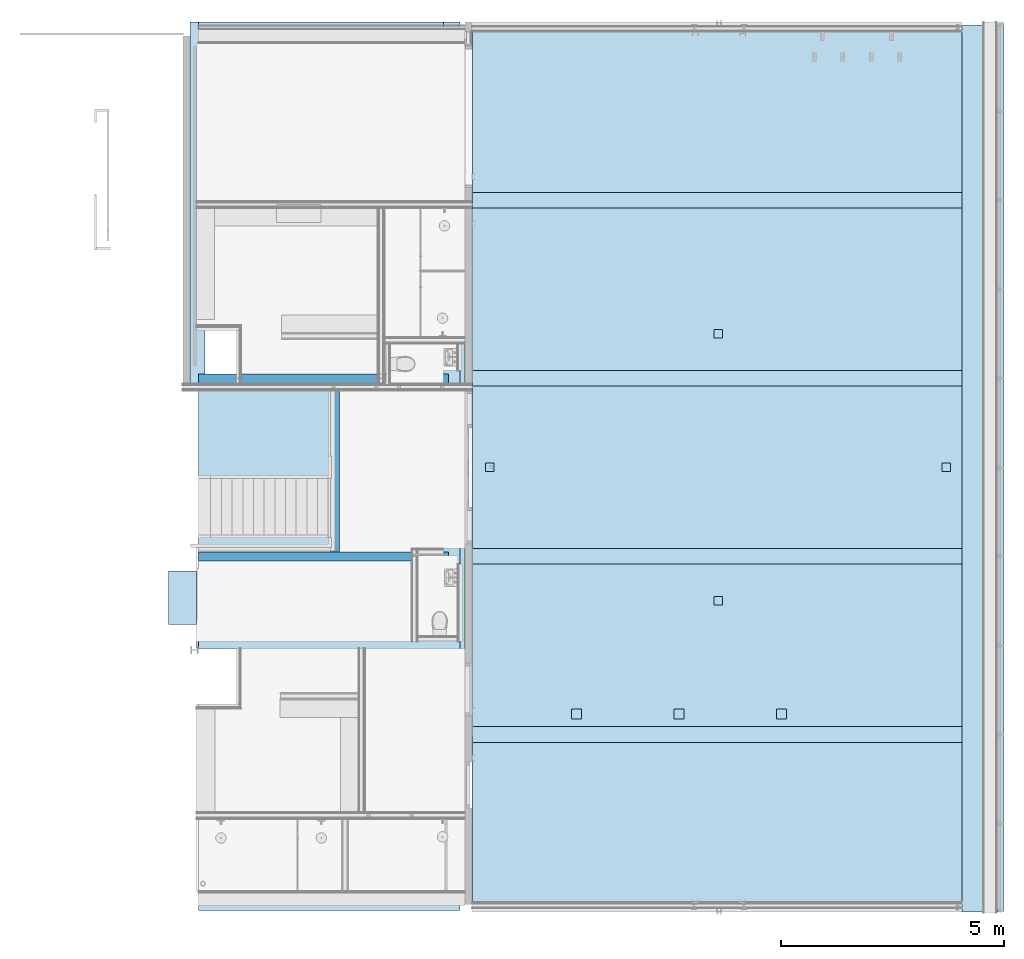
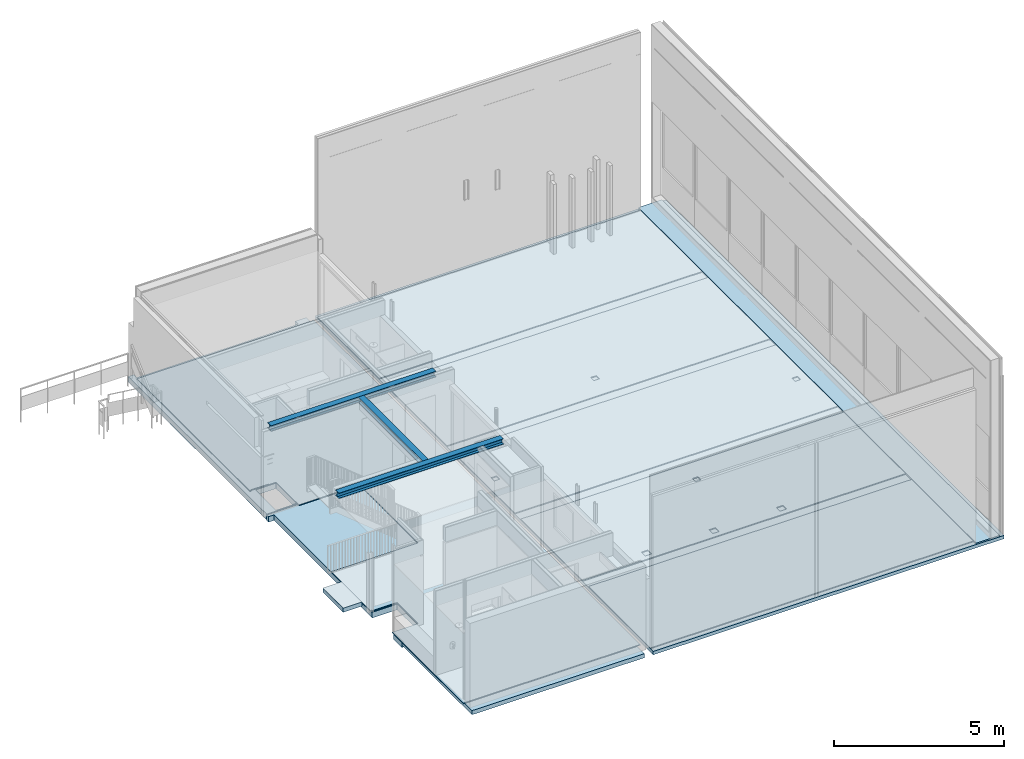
# One storey, part 6 of 35: 8 slabs, 3 beams, 14 openings.
"""IFC2X3 building model written with IfcOpenShell, lengths in millimetres."""

from ifc_helpers import new_model, entity, si_unit, converted_unit, derived_unit, money_unit, direction, frame, origin_with_axes, place, context, subcontext, project, spatial, faceted_brep, material, type_object, element, save


model = new_model("IFC2X3")

# Units and contexts
model_context = context("Model", 3, precision=0.01, world=origin_with_axes(), true_north=direction((0.0, 1.0)))
body_context = subcontext(model_context, "Body", "Model", "MODEL_VIEW")
ifc_project = project(units=[si_unit("LENGTHUNIT", "METRE", prefix="MILLI"), si_unit("AREAUNIT", "SQUARE_METRE"), si_unit("VOLUMEUNIT", "CUBIC_METRE"), converted_unit("PLANEANGLEUNIT", "DEGREE", entity("IfcPlaneAngleMeasure", 0.0174532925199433), si_unit("PLANEANGLEUNIT", "RADIAN"), dimensions=[0, 0, 0, 0, 0, 0, 0]), money_unit("EUR"), converted_unit("TIMEUNIT", "Year", entity("IfcTimeMeasure", 31557600.0), si_unit("TIMEUNIT", "SECOND"), dimensions=[0, 0, 1, 0, 0, 0, 0]), si_unit("MASSUNIT", "GRAM", prefix="KILO"), si_unit("THERMODYNAMICTEMPERATUREUNIT", "DEGREE_CELSIUS"), si_unit("LUMINOUSINTENSITYUNIT", "LUMEN"), si_unit("ENERGYUNIT", "JOULE", prefix="MEGA"), derived_unit("THERMALCONDUCTANCEUNIT", [(si_unit("POWERUNIT", "WATT"), 1), (si_unit("LENGTHUNIT", "METRE"), -1), (si_unit("THERMODYNAMICTEMPERATUREUNIT", "KELVIN"), -1)]), derived_unit("SPECIFICHEATCAPACITYUNIT", [(si_unit("ENERGYUNIT", "JOULE"), 1), (si_unit("MASSUNIT", "GRAM", prefix="KILO"), -1), (si_unit("THERMODYNAMICTEMPERATUREUNIT", "KELVIN"), -1)]), derived_unit("MASSDENSITYUNIT", [(si_unit("MASSUNIT", "GRAM", prefix="KILO"), 1), (si_unit("VOLUMEUNIT", "CUBIC_METRE"), -1)])], contexts=[model_context])

# Site, building, storey
site_placement = place(None, origin_with_axes())
site = spatial("IfcSite", under=ifc_project, at=site_placement, Name="<site naam>", CompositionType="ELEMENT")
building_placement = place(site_placement, origin_with_axes())
building = spatial("IfcBuilding", under=site, at=building_placement, Name="<Naam gebouw>", CompositionType="ELEMENT")
storey_placement = place(building_placement, frame((0.0, 0.0, 6345.0), z_axis=(0.0, 0.0, 1.0), x_axis=(1.0, 0.0, 0.0)))
storey = spatial("IfcBuildingStorey", under=building, at=storey_placement, Name="02 2e tussenverdieping", CompositionType="ELEMENT", Elevation=6345.0)

# Beams
ifc_material_1 = material(Name="staal C")
beam_type = type_object("IfcBeamType", Name="Profiel H algemeen 200 x 200", PredefinedType="BEAM")
beam_1_placement = place(storey_placement, frame((57786.4861307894, 8000.000000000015, 2937.999996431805), z_axis=(0.0, 0.0, 1.0), x_axis=(0.0, 1.0, 0.0)))
element("IfcBeam", 1, at=beam_1_placement, inside=storey, type_object=beam_type, material=ifc_material_1, Name="28_Balk_Profiel", ObjectType="BEAM", context=body_context, shape_type="Brep", body=[
    faceted_brep([(-100.0000031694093, 0.0, -100.000004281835), (-100.0000031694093, 5611.486130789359, -100.000004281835), (100.0000031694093, 5611.486130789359, -100.000004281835), (100.0000031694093, 0.0, -100.000004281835), (-100.0000030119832, 0.0, -84.99999684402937), (-100.0000030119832, 5611.486130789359, -84.99999684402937), (-4.499999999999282, 5611.486130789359, -84.99999684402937), (-4.499999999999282, 5611.486130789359, 84.99999684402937), (-100.0000030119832, 5611.486130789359, 84.99999684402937), (-100.0000031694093, 5611.486130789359, 100.000004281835), (100.0000031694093, 5611.486130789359, 100.000004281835), (100.0000030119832, 5611.486130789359, 84.99999684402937), (4.500000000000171, 5611.486130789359, 84.99999684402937), (4.500000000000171, 5611.486130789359, -84.99999684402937), (100.0000030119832, 5611.486130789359, -84.99999684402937), (100.0000030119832, 0.0, -84.99999684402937), (4.500000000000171, 0.0, -84.99999684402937), (4.500000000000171, 0.0, 84.99999684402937), (100.0000030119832, 0.0, 84.99999684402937), (100.0000031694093, 0.0, 100.000004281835), (-100.0000031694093, 0.0, 100.000004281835), (-100.0000030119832, 0.0, 84.99999684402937), (-4.500000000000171, 0.0, 84.99999684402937), (-4.500000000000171, 0.0, -84.99999684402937)], [[[0, 1, 2, 3]], [[4, 5, 1, 0]], [[2, 1, 5, 6, 7, 8, 9, 10, 11, 12, 13, 14]], [[3, 2, 14, 15]], [[4, 0, 3, 15, 16, 17, 18, 19, 20, 21, 22, 23]], [[23, 6, 5, 4]], [[22, 7, 6, 23]], [[21, 8, 7, 22]], [[20, 9, 8, 21]], [[19, 10, 9, 20]], [[18, 11, 10, 19]], [[17, 12, 11, 18]], [[16, 13, 12, 17]], [[15, 14, 13, 16]]]),
])
beam_2_placement = place(storey_placement, frame((55242.0983582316, 8000.000000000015, 2937.999996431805), z_axis=(0.0, 0.0, 1.0), x_axis=(1.0, 0.0, 0.0)))
element("IfcBeam", 2, at=beam_2_placement, inside=storey, type_object=beam_type, material=ifc_material_1, Name="28_Balk_Profiel", ObjectType="BEAM", context=body_context, shape_type="Brep", body=[
    faceted_brep([(-100.0000031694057, 3899.999996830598, 100.000003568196), (-100.0000031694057, 100.0000031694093, 100.000004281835), (100.0000031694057, 100.0000031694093, 100.000004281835), (100.0000031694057, 3899.999996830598, 100.000003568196), (-100.000003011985, 3899.999996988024, 84.99999613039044), (-100.000003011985, 100.0000030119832, 84.99999684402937), (4.500000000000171, 100.0000030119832, 84.99999684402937), (100.000003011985, 100.0000030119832, 84.99999684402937), (-4.500000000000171, 100.0000030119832, 84.99999684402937), (100.000003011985, 3899.999996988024, 84.99999613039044), (-4.500000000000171, 3899.999996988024, 84.99999613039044), (4.500000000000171, 3899.999996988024, 84.99999613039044), (-4.500000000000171, 4.500000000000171, 84.99999684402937), (4.500000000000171, 4.500000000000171, 84.99999684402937), (-4.500000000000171, 3995.500000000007, 84.99999613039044), (4.500000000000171, 3995.500000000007, 84.99999613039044), (-4.500000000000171, 4.500000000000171, -84.99999684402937), (-4.500000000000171, 3995.500000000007, -84.9999975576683), (-4.500000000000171, 3899.999996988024, -84.9999975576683), (-4.500000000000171, 100.0000030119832, -84.99999684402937), (4.500000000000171, 4.500000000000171, -84.99999684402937), (4.500000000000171, 100.0000030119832, -84.99999684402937), (4.500000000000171, 3899.999996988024, -84.9999975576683), (4.500000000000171, 3995.500000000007, -84.9999975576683), (-100.000003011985, 3899.999996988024, -84.9999975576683), (-100.000003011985, 100.0000030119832, -84.99999684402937), (100.000003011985, 100.0000030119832, -84.99999684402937), (100.000003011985, 3899.999996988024, -84.9999975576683), (100.0000031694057, 3899.999996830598, -100.0000049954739), (-100.0000031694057, 3899.999996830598, -100.0000049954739), (-100.0000031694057, 100.0000031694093, -100.000004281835), (100.0000031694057, 100.0000031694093, -100.000004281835)], [[[0, 1, 2, 3]], [[4, 5, 1, 0]], [[6, 7, 2, 1, 5, 8]], [[3, 2, 7, 9]], [[10, 4, 0, 3, 9, 11]], [[10, 8, 5, 4]], [[9, 7, 6, 11]], [[12, 13, 6, 8]], [[14, 10, 11, 15]], [[16, 12, 8, 10, 14, 17, 18, 19]], [[13, 20, 21, 22, 23, 15, 11, 6]], [[16, 20, 13, 12]], [[17, 14, 15, 23]], [[18, 17, 23, 22]], [[24, 25, 19, 18]], [[19, 21, 20, 16]], [[22, 21, 26, 27]], [[24, 18, 22, 27, 28, 29]], [[29, 30, 25, 24]], [[30, 31, 26, 21, 19, 25]], [[27, 26, 31, 28]], [[28, 31, 30, 29]]]),
])
beam_3_placement = place(storey_placement, frame((57786.4861307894, 12000.00000000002, 2937.999995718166), z_axis=(0.0, 0.0, 1.0), x_axis=(0.0, 1.0, 0.0)))
element("IfcBeam", 3, at=beam_3_placement, inside=storey, type_object=beam_type, material=ifc_material_1, Name="28_Balk_Profiel", ObjectType="BEAM", context=body_context, shape_type="Brep", body=[
    faceted_brep([(-100.0000031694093, 0.0, -100.000004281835), (-100.0000031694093, 5611.486130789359, -100.000004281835), (100.0000031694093, 5611.486130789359, -100.000004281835), (100.0000031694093, 0.0, -100.000004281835), (-100.0000030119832, 0.0, -84.99999684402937), (-100.0000030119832, 5611.486130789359, -84.99999684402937), (-4.500000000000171, 5611.486130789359, -84.99999684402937), (-4.500000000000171, 5611.486130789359, 84.99999684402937), (-100.0000030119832, 5611.486130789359, 84.99999684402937), (-100.0000031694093, 5611.486130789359, 100.000004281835), (100.0000031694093, 5611.486130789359, 100.000004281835), (100.0000030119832, 5611.486130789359, 84.99999684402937), (4.500000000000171, 5611.486130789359, 84.99999684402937), (4.500000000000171, 5611.486130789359, -84.99999684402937), (100.0000030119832, 5611.486130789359, -84.99999684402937), (100.0000030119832, 0.0, -84.99999684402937), (4.500000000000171, 0.0, -84.99999684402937), (4.500000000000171, 0.0, 84.99999684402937), (100.0000030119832, 0.0, 84.99999684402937), (100.0000031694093, 0.0, 100.000004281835), (-100.0000031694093, 0.0, 100.000004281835), (-100.0000030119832, 0.0, 84.99999684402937), (-4.500000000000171, 0.0, 84.99999684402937), (-4.500000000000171, 0.0, -84.99999684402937)], [[[0, 1, 2, 3]], [[4, 5, 1, 0]], [[2, 1, 5, 6, 7, 8, 9, 10, 11, 12, 13, 14]], [[3, 2, 14, 15]], [[4, 0, 3, 15, 16, 17, 18, 19, 20, 21, 22, 23]], [[23, 6, 5, 4]], [[22, 7, 6, 23]], [[21, 8, 7, 22]], [[20, 9, 8, 21]], [[19, 10, 9, 20]], [[18, 11, 10, 19]], [[17, 12, 11, 18]], [[16, 13, 12, 17]], [[15, 14, 13, 16]]]),
])

# Slab, openings
ifc_material_2 = material(Name="beton_gewapend_vloer C")
slab_type_1 = type_object("IfcSlabType", Name="beton_gewapend_vloer C  200", PredefinedType="NOTDEFINED")
slab_1_placement = place(storey_placement, frame((51984.99990246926, 11825.00000000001, -30.00000000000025), z_axis=(0.0, 0.0, 1.0), x_axis=(1.0, 0.0, 0.0)))
slab_1 = element("IfcSlab", 4, at=slab_1_placement, inside=storey, type_object=slab_type_1, material=ifc_material_2, Name="23_Vloer_beton_gewapend_vloer", PredefinedType="NOTDEFINED", context=body_context, shape_type="Brep", body=[
    faceted_brep([(0.0, 0.0, 0.0), (0.0, 0.0, -200.0000000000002), (6059.999880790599, 0.0, -200.0000000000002), (6059.999880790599, 0.0, 0.0), (0.0, 8175.000000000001, 0.0), (0.0, 8175.000000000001, -200.0000000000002), (6059.999880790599, 8175.000000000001, -200.0000000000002), (6059.999880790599, 8175.000000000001, 0.0)], [[[0, 1, 2, 3]], [[4, 5, 1, 0]], [[2, 1, 5, 6]], [[3, 2, 6, 7]], [[4, 0, 3, 7]], [[7, 6, 5, 4]]]),
])
opening_1_placement = place(slab_1_placement, frame((-51984.99990246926, -11825.00000000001, -6314.999999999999), z_axis=(0.0, 0.0, 1.0), x_axis=(1.0, 0.0, 0.0)))
element("IfcOpeningElement", 5, at=opening_1_placement, cuts=slab_1, Name="23_Opening_", context=body_context, shape_type="Brep", body=[
    faceted_brep([(52174.67944591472, 8275.000131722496, 6515.000000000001), (52174.67944591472, 11725.00000000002, 6515.000000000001), (52174.67944591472, 11725.00000000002, 5914.999999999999), (52174.67944591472, 8275.000131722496, 5914.999999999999), (55142.12181931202, 8274.999987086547, 6515.000000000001), (55142.12181931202, 11725.00000000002, 6515.000000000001), (55142.12181931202, 11725.00000000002, 5914.999999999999), (55142.12181931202, 8274.999987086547, 5914.999999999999)], [[[0, 1, 2, 3]], [[0, 4, 5, 1]], [[1, 5, 6, 2]], [[3, 2, 6, 7]], [[4, 0, 3, 7]], [[5, 4, 7, 6]]]),
])
opening_2_placement = place(slab_1_placement, frame((-51984.99990246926, -11825.00000000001, -6314.999999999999), z_axis=(0.0, 0.0, 1.0), x_axis=(1.0, 0.0, 0.0)))
element("IfcOpeningElement", 6, at=opening_2_placement, cuts=slab_1, Name="23_Opening_", context=body_context, shape_type="Brep", body=[
    faceted_brep([(52325.00000000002, 11875.00000000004, 6515.000000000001), (52325.00000000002, 13075.00000000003, 6515.000000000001), (52325.00000000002, 13075.00000000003, 5914.999999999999), (52325.00000000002, 11875.00000000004, 5914.999999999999), (53025.00000000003, 11875.00000000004, 6515.000000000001), (53025.00000000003, 13075.00000000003, 6515.000000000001), (53025.00000000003, 13075.00000000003, 5914.999999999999), (53025.00000000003, 11875.00000000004, 5914.999999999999)], [[[0, 1, 2, 3]], [[0, 4, 5, 1]], [[1, 5, 6, 2]], [[3, 2, 6, 7]], [[4, 0, 3, 7]], [[5, 4, 7, 6]]]),
])
opening_3_placement = place(slab_1_placement, frame((-51984.99990246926, -11825.00000000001, -6314.999999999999), z_axis=(0.0, 0.0, 1.0), x_axis=(1.0, 0.0, 0.0)))
element("IfcOpeningElement", 7, at=opening_3_placement, cuts=slab_1, Name="23_Opening_", context=body_context, shape_type="Brep", body=[
    faceted_brep([(52324.87234042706, 4685.000000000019, 6515.000000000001), (52324.87234042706, 5934.750000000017, 6515.000000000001), (52324.87234042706, 5934.750000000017, 5914.999999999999), (52324.87234042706, 4685.000000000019, 5914.999999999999), (53025.00000000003, 4685.000000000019, 6515.000000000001), (53025.00000000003, 5934.750000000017, 6515.000000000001), (53025.00000000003, 5934.750000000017, 5914.999999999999), (53025.00000000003, 4685.000000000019, 5914.999999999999)], [[[0, 1, 2, 3]], [[0, 4, 5, 1]], [[1, 5, 6, 2]], [[3, 2, 6, 7]], [[4, 0, 3, 7]], [[5, 4, 7, 6]]]),
])
opening_4_placement = place(slab_1_placement, frame((-51984.99990246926, -11825.00000000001, -6314.999999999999), z_axis=(0.0, 0.0, 1.0), x_axis=(1.0, 0.0, 0.0)))
element("IfcOpeningElement", 8, at=opening_4_placement, cuts=slab_1, Name="23_Opening_", context=body_context, shape_type="Brep", body=[
    faceted_brep([(52175.00007309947, 20000.00000000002, 6314.999999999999), (52175.00007309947, 20290.62140104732, 6314.999999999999), (52175.00007309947, 20290.62140104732, 6164.999999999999), (52175.00007309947, 20000.00000000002, 6164.999999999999), (57675.00000000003, 20000.00000000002, 6314.999999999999), (57675.00000000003, 20290.62140104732, 6314.999999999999), (57675.00000000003, 20290.62140104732, 6164.999999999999), (57675.00000000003, 20000.00000000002, 6164.999999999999)], [[[0, 1, 2, 3]], [[0, 4, 5, 1]], [[1, 5, 6, 2]], [[3, 2, 6, 7]], [[4, 0, 3, 7]], [[5, 4, 7, 6]]]),
])
opening_5_placement = place(slab_1_placement, frame((-51984.99990246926, -11825.00000000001, -6314.999999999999), z_axis=(0.0, 0.0, 1.0), x_axis=(1.0, 0.0, 0.0)))
element("IfcOpeningElement", 9, at=opening_5_placement, cuts=slab_1, Name="23_Opening_", context=body_context, shape_type="Brep", body=[
    faceted_brep([(52175.00000000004, 19825.00000000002, 6314.999999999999), (52175.00000000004, 19999.99992132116, 6314.999999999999), (52175.00000000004, 19999.99992132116, 6164.999999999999), (52175.00000000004, 19825.00000000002, 6164.999999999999), (57674.9999269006, 19825.00000000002, 6314.999999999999), (57674.9999269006, 19999.99992132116, 6314.999999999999), (57674.9999269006, 19999.99992132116, 6164.999999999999), (57674.9999269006, 19825.00000000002, 6164.999999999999)], [[[0, 1, 2, 3]], [[0, 4, 5, 1]], [[1, 5, 6, 2]], [[3, 2, 6, 7]], [[4, 0, 3, 7]], [[5, 4, 7, 6]]]),
])

# Slab, opening
slab_2_placement = place(storey_placement, frame((58044.99988079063, 11825.00000000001, -60.0000000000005), z_axis=(0.0, 0.0, 1.0), x_axis=(1.0, 0.0, 0.0)))
slab_2 = element("IfcSlab", 10, at=slab_2_placement, inside=storey, type_object=slab_type_1, material=ifc_material_2, Name="23_Vloer_beton_gewapend_vloer", PredefinedType="NOTDEFINED", context=body_context, shape_type="Brep", body=[
    faceted_brep([(0.0, 0.0, 0.0), (0.0, 0.0, -200.0000000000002), (-6059.999880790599, 0.0, -200.0000000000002), (-6059.999880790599, 0.0, 0.0), (0.0, -7649.999999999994, 0.0), (0.0, -7649.999999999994, -200.0000000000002), (-5870.320434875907, -7649.999999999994, -200.0000000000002), (-5870.320434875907, -99.99999999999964, -200.0000000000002), (-6059.999880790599, -99.99999999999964, -200.0000000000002), (-6059.999880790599, -99.99999999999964, 0.0), (-5870.320434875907, -99.99999999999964, 0.0), (-5870.320434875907, -7649.999999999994, 0.0)], [[[0, 1, 2, 3]], [[4, 5, 1, 0]], [[2, 1, 5, 6, 7, 8]], [[3, 2, 8, 9]], [[4, 0, 3, 9, 10, 11]], [[11, 6, 5, 4]], [[10, 7, 6, 11]], [[9, 8, 7, 10]]]),
])
opening_6_placement = place(slab_2_placement, frame((-58044.99988079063, -11825.00000000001, -6284.999999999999), z_axis=(0.0, 0.0, 1.0), x_axis=(1.0, 0.0, 0.0)))
element("IfcOpeningElement", 11, at=opening_6_placement, cuts=slab_2, Name="23_Opening_", context=body_context, shape_type="Brep", body=[
    faceted_brep([(52135.00000000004, 4685.000000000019, 6484.999999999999), (52135.00000000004, 5934.750000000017, 6484.999999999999), (52135.00000000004, 5934.750000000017, 5884.999999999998), (52135.00000000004, 4685.000000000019, 5884.999999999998), (53025.00000000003, 4685.000000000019, 6484.999999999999), (53025.00000000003, 5934.750000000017, 6484.999999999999), (53025.00000000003, 5934.750000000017, 5884.999999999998), (53025.00000000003, 4685.000000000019, 5884.999999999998)], [[[0, 1, 2, 3]], [[0, 4, 5, 1]], [[1, 5, 6, 2]], [[3, 2, 6, 7]], [[4, 0, 3, 7]], [[5, 4, 7, 6]]]),
])

# Slab
slab_type_2 = type_object("IfcSlabType", Name="beton_gewapend_vloer C  120", PredefinedType="NOTDEFINED")
slab_3_placement = place(storey_placement, frame((58325.00000000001, 10.91067811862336, -30.00000000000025), z_axis=(0.0, 0.0, 1.0), x_axis=(1.0, 0.0, 0.0)))
element("IfcSlab", 12, at=slab_3_placement, inside=storey, type_object=slab_type_2, material=ifc_material_2, Name="23_Vloer_beton_gewapend_vloer", PredefinedType="NOTDEFINED", context=body_context, shape_type="Brep", body=[
    faceted_brep([(0.0, 0.0, 0.0), (0.0, 0.0, -120.0000000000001), (11945.00000000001, 0.0, -120.0000000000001), (11945.00000000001, 0.0, 0.0), (0.0, 19929.08932188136, 0.0), (0.0, 19929.08932188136, -120.0000000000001), (11945.00000000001, 19929.08932188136, -120.0000000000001), (11945.00000000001, 19929.08932188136, 0.0)], [[[0, 1, 2, 3]], [[4, 5, 1, 0]], [[2, 1, 5, 6]], [[3, 2, 6, 7]], [[4, 0, 3, 7]], [[7, 6, 5, 4]]]),
])

# Slab, openings
ifc_material_3 = material(Name="beton")
slab_type_3 = type_object("IfcSlabType", Name="beton 30", PredefinedType="NOTDEFINED")
slab_4_placement = place(storey_placement, frame((58317.78284470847, 10.91067811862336, -30.00000000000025), z_axis=(0.0, 0.0, 1.0), x_axis=(1.0, 0.0, 0.0)))
slab_4 = element("IfcSlab", 13, at=slab_4_placement, inside=storey, type_object=slab_type_3, material=ifc_material_3, Name="23_Vloer_beton", PredefinedType="NOTDEFINED", context=body_context, shape_type="Brep", body=[
    faceted_brep([(11007.21715529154, 3814.08932188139, 0.0), (7.21715529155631, 3814.089321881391, 0.0), (7.21715529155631, 3814.089321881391, 30.00000000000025), (11007.21715529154, 3814.089321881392, 30.00000000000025), (11007.21715529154, 164.0893218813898, 0.0), (7.21715529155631, 164.0893218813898, 0.0), (7.21715529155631, 164.0893218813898, 30.00000000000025), (11007.21715529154, 164.0893218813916, 30.00000000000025)], [[[0, 1, 2, 3]], [[4, 5, 1, 0]], [[5, 6, 2, 1]], [[3, 2, 6, 7]], [[4, 0, 3, 7]], [[7, 6, 5, 4]]]),
    faceted_brep([(11007.21715529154, 7814.089321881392, 0.0), (7.21715529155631, 7814.089321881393, 0.0), (7.21715529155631, 7814.089321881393, 30.00000000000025), (11007.21715529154, 7814.089321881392, 30.00000000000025), (11007.21715529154, 4164.089321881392, 0.0), (7.21715529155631, 4164.089321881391, 0.0), (7.21715529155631, 4164.089321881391, 30.00000000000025), (11007.21715529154, 4164.089321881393, 30.00000000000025)], [[[0, 1, 2, 3]], [[4, 5, 1, 0]], [[5, 6, 2, 1]], [[3, 2, 6, 7]], [[4, 0, 3, 7]], [[7, 6, 5, 4]]]),
    faceted_brep([(11007.21715529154, 11814.08932188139, 0.0), (7.21715529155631, 11814.08932188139, 0.0), (7.21715529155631, 11814.08932188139, 30.00000000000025), (11007.21715529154, 11814.08932188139, 30.00000000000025), (11007.21715529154, 8164.089321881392, 0.0), (7.21715529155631, 8164.089321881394, 0.0), (7.21715529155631, 8164.089321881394, 30.00000000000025), (11007.21715529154, 8164.089321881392, 30.00000000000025)], [[[0, 1, 2, 3]], [[4, 5, 1, 0]], [[5, 6, 2, 1]], [[3, 2, 6, 7]], [[4, 0, 3, 7]], [[7, 6, 5, 4]]]),
    faceted_brep([(11007.21715529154, 15814.08932188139, 0.0), (7.217155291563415, 15814.08932188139, 0.0), (7.217155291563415, 15814.08932188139, 30.00000000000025), (11007.21715529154, 15814.08932188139, 30.00000000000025), (11007.21715529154, 12164.08932188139, 0.0), (7.21715529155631, 12164.08932188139, 0.0), (7.21715529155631, 12164.08932188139, 30.00000000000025), (11007.21715529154, 12164.08932188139, 30.00000000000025)], [[[0, 1, 2, 3]], [[4, 5, 1, 0]], [[5, 6, 2, 1]], [[3, 2, 6, 7]], [[4, 0, 3, 7]], [[7, 6, 5, 4]]]),
    faceted_brep([(11007.21715529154, 19814.08932188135, 0.0), (7.217155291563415, 19814.08932188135, 0.0), (7.217155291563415, 19814.08932188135, 30.00000000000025), (11007.21715529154, 19814.08932188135, 30.00000000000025), (11007.21715529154, 16164.08932188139, 0.0), (7.217155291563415, 16164.08932188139, 0.0), (7.217155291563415, 16164.08932188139, 30.00000000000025), (11007.21715529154, 16164.08932188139, 30.00000000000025)], [[[0, 1, 2, 3]], [[4, 5, 1, 0]], [[5, 6, 2, 1]], [[3, 2, 6, 7]], [[3, 7, 4, 0]], [[7, 6, 5, 4]]]),
])
opening_7_placement = place(slab_4_placement, frame((-58317.78284470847, -10.91067811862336, -6314.999999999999), z_axis=(0.0, 0.0, 1.0), x_axis=(1.0, 0.0, 0.0)))
element("IfcOpeningElement", 14, at=opening_7_placement, cuts=slab_4, Name="23_Opening_", context=body_context, shape_type="Brep", body=[
    faceted_brep([(63751.24207001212, 12910.45093231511, 6285.0), (63941.24207000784, 12910.45093231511, 6285.0), (63941.24207000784, 12910.45093231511, 6375.0), (63751.24207001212, 12910.45093231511, 6375.0), (63751.24207001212, 13100.45093231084, 6285.0), (63941.24207000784, 13100.45093231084, 6285.0), (63941.24207000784, 13100.45093231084, 6375.0), (63751.24207001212, 13100.45093231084, 6375.0)], [[[0, 1, 2, 3]], [[0, 4, 5, 1]], [[1, 5, 6, 2]], [[3, 2, 6, 7]], [[4, 0, 3, 7]], [[5, 4, 7, 6]]]),
])
opening_8_placement = place(slab_4_placement, frame((-58317.78284470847, -10.91067811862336, -6314.999999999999), z_axis=(0.0, 0.0, 1.0), x_axis=(1.0, 0.0, 0.0)))
element("IfcOpeningElement", 15, at=opening_8_placement, cuts=slab_4, Name="23_Opening_", context=body_context, shape_type="Brep", body=[
    faceted_brep([(62853.74207001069, 4347.950932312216, 6285.0), (63078.74207000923, 4347.950932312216, 6285.0), (63078.74207000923, 4347.950932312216, 6375.0), (62853.74207001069, 4347.950932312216, 6375.0), (62853.74207001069, 4572.95093231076, 6285.0), (63078.74207000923, 4572.95093231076, 6285.0), (63078.74207000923, 4572.95093231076, 6375.0), (62853.74207001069, 4572.95093231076, 6375.0)], [[[0, 1, 2, 3]], [[0, 4, 5, 1]], [[1, 5, 6, 2]], [[3, 2, 6, 7]], [[4, 0, 3, 7]], [[5, 4, 7, 6]]]),
])
opening_9_placement = place(slab_4_placement, frame((-58317.78284470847, -10.91067811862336, -6314.999999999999), z_axis=(0.0, 0.0, 1.0), x_axis=(1.0, 0.0, 0.0)))
element("IfcOpeningElement", 16, at=opening_9_placement, cuts=slab_4, Name="23_Opening_", context=body_context, shape_type="Brep", body=[
    faceted_brep([(63751.21707001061, 6910.450932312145, 6285.0), (63941.2170700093, 6910.450932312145, 6285.0), (63941.2170700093, 6910.450932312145, 6375.0), (63751.21707001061, 6910.450932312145, 6375.0), (63751.21707001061, 7100.450932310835, 6285.0), (63941.2170700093, 7100.450932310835, 6285.0), (63941.2170700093, 7100.450932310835, 6375.0), (63751.21707001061, 7100.450932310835, 6375.0)], [[[0, 1, 2, 3]], [[0, 4, 5, 1]], [[1, 5, 6, 2]], [[3, 2, 6, 7]], [[4, 0, 3, 7]], [[5, 4, 7, 6]]]),
])
opening_10_placement = place(slab_4_placement, frame((-58317.78284470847, -10.91067811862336, -6314.999999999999), z_axis=(0.0, 0.0, 1.0), x_axis=(1.0, 0.0, 0.0)))
element("IfcOpeningElement", 17, at=opening_10_placement, cuts=slab_4, Name="23_Opening_", context=body_context, shape_type="Brep", body=[
    faceted_brep([(65153.74207001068, 4347.950932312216, 6285.0), (65378.74207000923, 4347.950932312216, 6285.0), (65378.74207000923, 4347.950932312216, 6375.0), (65153.74207001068, 4347.950932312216, 6375.0), (65153.74207001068, 4572.95093231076, 6285.0), (65378.74207000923, 4572.95093231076, 6285.0), (65378.74207000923, 4572.95093231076, 6375.0), (65153.74207001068, 4572.95093231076, 6375.0)], [[[0, 1, 2, 3]], [[0, 4, 5, 1]], [[1, 5, 6, 2]], [[3, 2, 6, 7]], [[4, 0, 3, 7]], [[5, 4, 7, 6]]]),
])
opening_11_placement = place(slab_4_placement, frame((-58317.78284470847, -10.91067811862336, -6314.999999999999), z_axis=(0.0, 0.0, 1.0), x_axis=(1.0, 0.0, 0.0)))
element("IfcOpeningElement", 18, at=opening_11_placement, cuts=slab_4, Name="23_Opening_", context=body_context, shape_type="Brep", body=[
    faceted_brep([(60553.74207001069, 4347.950932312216, 6285.0), (60778.74207000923, 4347.950932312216, 6285.0), (60778.74207000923, 4347.950932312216, 6375.0), (60553.74207001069, 4347.950932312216, 6375.0), (60553.74207001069, 4572.95093231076, 6285.0), (60778.74207000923, 4572.95093231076, 6285.0), (60778.74207000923, 4572.95093231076, 6375.0), (60553.74207001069, 4572.95093231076, 6375.0)], [[[0, 1, 2, 3]], [[0, 4, 5, 1]], [[1, 5, 6, 2]], [[3, 2, 6, 7]], [[4, 0, 3, 7]], [[5, 4, 7, 6]]]),
])
opening_12_placement = place(slab_4_placement, frame((-58317.78284470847, -10.91067811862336, -6314.999999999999), z_axis=(0.0, 0.0, 1.0), x_axis=(1.0, 0.0, 0.0)))
element("IfcOpeningElement", 19, at=opening_12_placement, cuts=slab_4, Name="23_Opening_", context=body_context, shape_type="Brep", body=[
    faceted_brep([(68876.24206987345, 9910.450932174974, 6285.0), (69066.24207014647, 9910.450932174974, 6285.0), (69066.24207014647, 9910.450932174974, 6375.0), (68876.24206987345, 9910.450932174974, 6375.0), (68876.24206987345, 10100.45093244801, 6285.0), (69066.24207014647, 10100.45093244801, 6285.0), (69066.24207014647, 10100.45093244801, 6375.0), (68876.24206987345, 10100.45093244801, 6375.0)], [[[0, 1, 2, 3]], [[0, 4, 5, 1]], [[1, 5, 6, 2]], [[3, 2, 6, 7]], [[4, 0, 3, 7]], [[5, 4, 7, 6]]]),
])
opening_13_placement = place(slab_4_placement, frame((-58317.78284470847, -10.91067811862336, -6314.999999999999), z_axis=(0.0, 0.0, 1.0), x_axis=(1.0, 0.0, 0.0)))
element("IfcOpeningElement", 20, at=opening_13_placement, cuts=slab_4, Name="23_Opening_", context=body_context, shape_type="Brep", body=[
    faceted_brep([(58626.24206987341, 9910.450932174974, 6285.0), (58816.24207014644, 9910.450932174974, 6285.0), (58816.24207014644, 9910.450932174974, 6375.0), (58626.24206987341, 9910.450932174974, 6375.0), (58626.24206987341, 10100.45093244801, 6285.0), (58816.24207014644, 10100.45093244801, 6285.0), (58816.24207014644, 10100.45093244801, 6375.0), (58626.24206987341, 10100.45093244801, 6375.0)], [[[0, 1, 2, 3]], [[0, 4, 5, 1]], [[1, 5, 6, 2]], [[3, 2, 6, 7]], [[4, 0, 3, 7]], [[5, 4, 7, 6]]]),
])

# Slab, opening
ifc_material_4 = material(Name="Zwevende dekvloer")
slab_type_4 = type_object("IfcSlabType", Name="Zwevende dekvloer 30", PredefinedType="NOTDEFINED")
slab_5_placement = place(storey_placement, frame((52134.99994400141, 19730.99999999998, 0.0), z_axis=(0.0, 0.0, 1.0), x_axis=(1.0, 0.0, 0.0)))
slab_5 = element("IfcSlab", 21, at=slab_5_placement, inside=storey, type_object=slab_type_4, material=ifc_material_4, Name="23_Vloer_Zwevende", PredefinedType="NOTDEFINED", context=body_context, shape_type="Brep", body=[
    faceted_brep([(5.599861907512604e-05, -13796.24999999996, 0.0), (16.99948731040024, -13796.24999999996, 0.0), (16.99948731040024, -13752.99991744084, 0.0), (30.00005599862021, -13752.99990172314, 0.0), (30.00005599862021, -13796.24999999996, 0.0), (890.0000559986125, -13796.24999999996, 0.0), (890.0000559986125, -15045.99999999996, 0.0), (5.59986261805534e-05, -15045.99999999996, 0.0), (5.59986261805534e-05, -19252.99999999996, 0.0), (6022.782659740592, -19252.99999999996, 0.0), (6022.782659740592, 0.0, 0.0), (0.0, 0.0, 0.0), (0.0, -6655.999999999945, 0.0), (890.0000559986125, -6655.999999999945, 0.0), (890.0000559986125, -8005.999981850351, 0.0), (2959.621874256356, -8005.999981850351, 0.0), (2959.621874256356, -11456.00001814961, 0.0), (5.599861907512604e-05, -11456.00001814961, 0.0), (5.599861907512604e-05, -13796.24999999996, -30.00000000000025), (16.99948731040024, -13796.24999999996, -30.00000000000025), (16.99948731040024, -13752.99991744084, -30.00000000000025), (30.00005599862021, -13752.99990172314, -30.00000000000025), (30.00005599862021, -13796.24999999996, -30.00000000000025), (890.0000559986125, -13796.24999999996, -30.00000000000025), (890.0000559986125, -15045.99999999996, -30.00000000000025), (5.59986261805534e-05, -15045.99999999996, -30.00000000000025), (5.59986261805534e-05, -19252.99999999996, -30.00000000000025), (6022.782659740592, -19252.99999999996, -30.00000000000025), (6022.782659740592, 0.0, -30.00000000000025), (0.0, 0.0, -30.00000000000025), (0.0, -6655.999999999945, -30.00000000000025), (890.0000559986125, -6655.999999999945, -30.00000000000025), (890.0000559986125, -8005.999981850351, -30.00000000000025), (2959.621874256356, -8005.999981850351, -30.00000000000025), (2959.621874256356, -11456.00001814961, -30.00000000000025), (5.599861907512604e-05, -11456.00001814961, -30.00000000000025)], [[[0, 1, 2, 3, 4, 5, 6, 7, 8, 9, 10, 11, 12, 13, 14, 15, 16, 17]], [[18, 19, 1, 0]], [[20, 2, 1, 19]], [[21, 3, 2, 20]], [[22, 4, 3, 21]], [[5, 4, 22, 23]], [[6, 5, 23, 24]], [[7, 6, 24, 25]], [[8, 7, 25, 26]], [[9, 8, 26, 27]], [[10, 9, 27, 28]], [[11, 10, 28, 29]], [[12, 11, 29, 30]], [[13, 12, 30, 31]], [[14, 13, 31, 32]], [[15, 14, 32, 33]], [[16, 15, 33, 34]], [[17, 16, 34, 35]], [[0, 17, 35, 18]], [[21, 20, 19, 18, 35, 34, 33, 32, 31, 30, 29, 28, 27, 26, 25, 24, 23, 22]]]),
])
opening_14_placement = place(slab_5_placement, frame((-52134.99994400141, -19730.99999999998, -6345.0), z_axis=(0.0, 0.0, 1.0), x_axis=(1.0, 0.0, 0.0)))
element("IfcOpeningElement", 22, at=opening_14_placement, cuts=slab_5, Name="23_Opening_", context=body_context, shape_type="Brep", body=[
    faceted_brep([(52175.00000000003, 12105.00001099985, 6375.000000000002), (52175.00000000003, 13105.00001099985, 6375.000000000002), (52175.00000000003, 13105.00001099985, 6285.000000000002), (52175.00000000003, 12105.00001099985, 6285.000000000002), (52775.00000000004, 12105.00001099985, 6375.000000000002), (52775.00000000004, 13105.00001099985, 6375.000000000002), (52775.00000000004, 13105.00001099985, 6285.000000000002), (52775.00000000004, 12105.00001099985, 6285.000000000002)], [[[0, 1, 2, 3]], [[0, 4, 5, 1]], [[1, 5, 6, 2]], [[3, 2, 6, 7]], [[4, 0, 3, 7]], [[5, 4, 7, 6]]]),
])

# Slabs
slab_type_5 = type_object("IfcSlabType", Name="beton_gewapend_vloer C  150", PredefinedType="NOTDEFINED")
slab_6_placement = place(storey_placement, frame((51501.00000000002, 6474.999991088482, 0.0), z_axis=(0.0, 0.0, 1.0), x_axis=(1.0, 0.0, 0.0)))
element("IfcSlab", 23, at=slab_6_placement, inside=storey, type_object=slab_type_5, material=ifc_material_2, Name="23_Vloer_beton_gewapend_vloer", PredefinedType="NOTDEFINED", context=body_context, shape_type="Brep", body=[
    faceted_brep([(0.0, 0.0, 0.0), (0.0, 0.0, -150.0000000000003), (634.0000000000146, 0.0, -150.0000000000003), (634.0000000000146, 0.0, 0.0), (0.0, 1200.0, 0.0), (0.0, 1200.0, -150.0000000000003), (634.0000000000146, 1200.0, -150.0000000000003), (634.0000000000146, 1200.0, 0.0)], [[[0, 1, 2, 3]], [[4, 5, 1, 0]], [[2, 1, 5, 6]], [[3, 2, 6, 7]], [[4, 0, 3, 7]], [[7, 6, 5, 4]]]),
])
slab_7_placement = place(storey_placement, frame((58044.99978325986, 4175.000000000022, -29.99999999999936), z_axis=(0.0, 0.0, 1.0), x_axis=(1.0, 0.0, 0.0)))
element("IfcSlab", 24, at=slab_7_placement, inside=storey, type_object=slab_type_5, material=ifc_material_2, Name="23_Vloer_beton_gewapend_vloer", PredefinedType="NOTDEFINED", context=body_context, shape_type="Brep", body=[
    faceted_brep([(0.0, 0.0, 0.0), (0.0, 0.0, -150.0000000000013), (-5870.320434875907, 0.0, -150.0000000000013), (-5870.320434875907, 0.0, 0.0), (0.0, -4124.954634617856, 0.0), (0.0, -4124.954634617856, -150.0000000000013), (-5870.320434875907, -4124.954634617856, -150.0000000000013), (-5870.320434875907, -4124.954634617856, 0.0)], [[[0, 1, 2, 3]], [[4, 5, 1, 0]], [[2, 1, 5, 6]], [[3, 2, 6, 7]], [[4, 0, 3, 7]], [[7, 6, 5, 4]]]),
])
slab_type_6 = type_object("IfcSlabType", Name="beton_gewapend_vloer C  50", PredefinedType="NOTDEFINED")
slab_8_placement = place(storey_placement, frame((69325.0, 10.91067811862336, -30.00000000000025), z_axis=(0.0, 0.0, 1.0), x_axis=(1.0, 0.0, 0.0)))
element("IfcSlab", 25, at=slab_8_placement, inside=storey, type_object=slab_type_6, material=ifc_material_2, Name="23_Vloer_beton_gewapend_vloer", PredefinedType="NOTDEFINED", context=body_context, shape_type="Brep", body=[
    faceted_brep([(0.0, 0.0, 50.00000000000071), (0.0, 0.0, 0.0), (800.0000000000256, 0.0, 0.0), (800.0000000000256, 0.0, 50.00000000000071), (0.0, 19929.08932188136, 50.00000000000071), (0.0, 19929.08932188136, 0.0), (800.0000000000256, 19929.08932188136, 0.0), (800.0000000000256, 19929.08932188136, 50.00000000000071)], [[[0, 1, 2, 3]], [[4, 5, 1, 0]], [[2, 1, 5, 6]], [[3, 2, 6, 7]], [[4, 0, 3, 7]], [[7, 6, 5, 4]]]),
])

save(model, "model.ifc")
